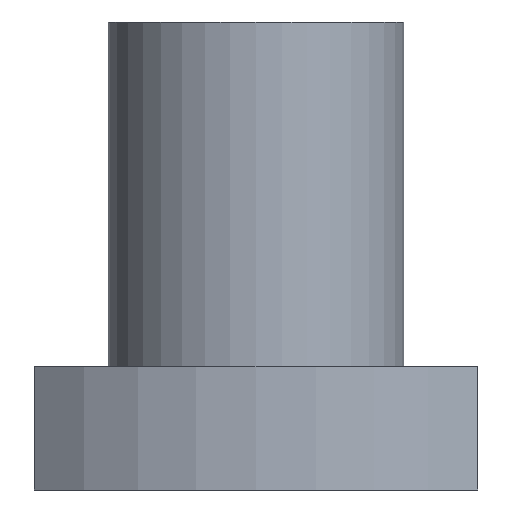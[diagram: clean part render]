
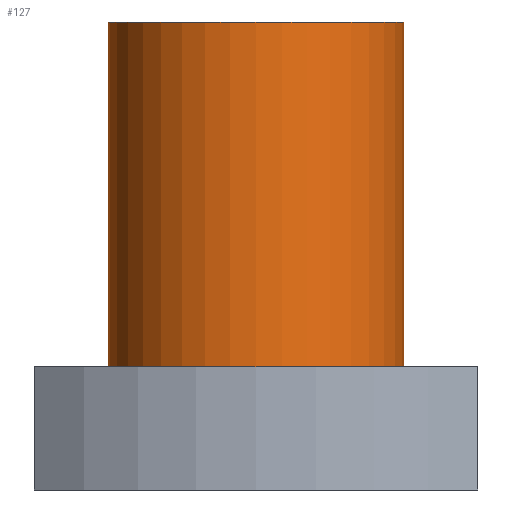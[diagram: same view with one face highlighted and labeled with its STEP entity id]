
A CAD part, front view. The second image highlights one B-rep face of the part: STEP entity #127.
In plain terms, the highlighted cylindrical face has radius 6 mm (diameter 12 mm), a partial arc.
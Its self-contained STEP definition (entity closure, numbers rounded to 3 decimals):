
#86=CARTESIAN_POINT('',(4.,-5.494,0.0));
#87=DIRECTION('',(0.0,0.0,1.0));
#88=DIRECTION('',(-1.0,0.0,0.0));
#89=AXIS2_PLACEMENT_3D('',#86,#87,#88);
#90=CYLINDRICAL_SURFACE('',#89,6.);
#91=CARTESIAN_POINT('',(-2.,-5.494,5.0));
#92=VERTEX_POINT('',#91);
#93=CARTESIAN_POINT('',(-2.,-5.494,19.0));
#94=VERTEX_POINT('',#93);
#95=CARTESIAN_POINT('',(-2.,-5.494,5.0));
#96=DIRECTION('',(0.0,0.0,1.0));
#97=VECTOR('',#96,14.0);
#98=LINE('',#95,#97);
#99=EDGE_CURVE('',#92,#94,#98,.T.);
#100=ORIENTED_EDGE('',*,*,#99,.F.);
#101=CARTESIAN_POINT('',(10.,-5.494,5.0));
#102=VERTEX_POINT('',#101);
#103=CARTESIAN_POINT('',(4.,-5.494,5.0));
#104=DIRECTION('',(0.0,0.0,-1.0));
#105=DIRECTION('',(-1.0,0.0,0.0));
#106=AXIS2_PLACEMENT_3D('',#103,#104,#105);
#107=CIRCLE('',#106,6.);
#108=EDGE_CURVE('',#102,#92,#107,.T.);
#109=ORIENTED_EDGE('',*,*,#108,.F.);
#110=CARTESIAN_POINT('',(10.,-5.494,19.0));
#111=VERTEX_POINT('',#110);
#112=CARTESIAN_POINT('',(10.,-5.494,19.0));
#113=DIRECTION('',(0.0,0.0,-1.0));
#114=VECTOR('',#113,14.0);
#115=LINE('',#112,#114);
#116=EDGE_CURVE('',#111,#102,#115,.T.);
#117=ORIENTED_EDGE('',*,*,#116,.F.);
#118=CARTESIAN_POINT('',(4.,-5.494,19.0));
#119=DIRECTION('',(0.0,0.0,-1.0));
#120=DIRECTION('',(-1.0,0.0,0.0));
#121=AXIS2_PLACEMENT_3D('',#118,#119,#120);
#122=CIRCLE('',#121,6.);
#123=EDGE_CURVE('',#111,#94,#122,.T.);
#124=ORIENTED_EDGE('',*,*,#123,.T.);
#125=EDGE_LOOP('',(#100,#109,#117,#124));
#126=FACE_OUTER_BOUND('',#125,.T.);
#127=ADVANCED_FACE('',(#126),#90,.T.);
